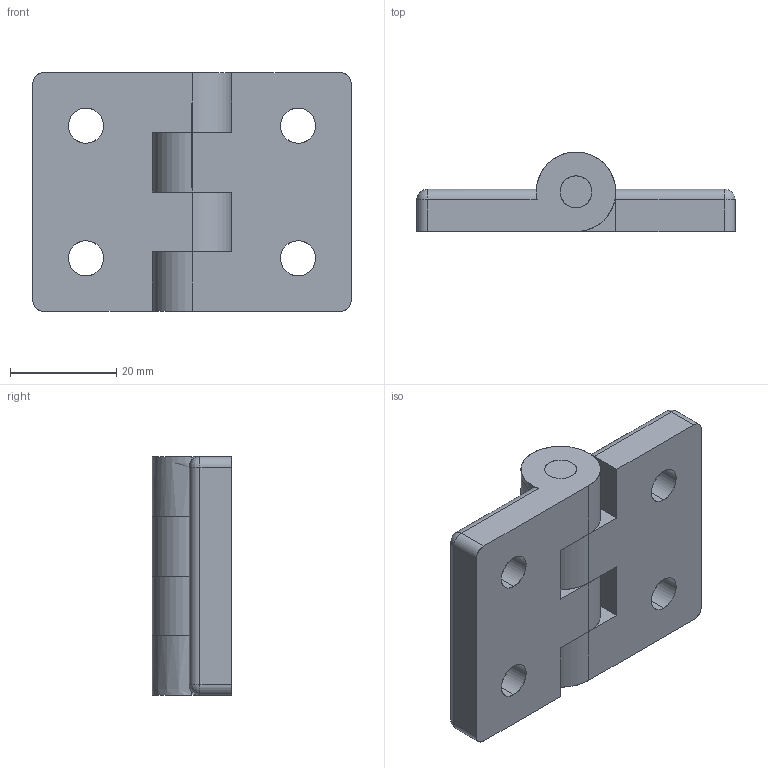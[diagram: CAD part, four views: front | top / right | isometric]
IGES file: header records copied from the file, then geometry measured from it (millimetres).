
Start section: SolidWorks IGES file using analytic representation for surfaces
Global section: file name: D:\LETROMEC CATALOGUE\Hinge\LIMA-H40X40-NEW\LIMA-H40X40-NEW.IGS; native system: SolidWorks 2013; preprocessor: SolidWorks 2013; author: User; date: 180315.205111; units: millimetre
Bounding box: 60 x 15 x 45 mm (x, y, z)
Surface area: 10891 mm2 (no closed solid volume)
Topology: 0 solids, 0 shells, 70 faces, 1150 edges, 1150 vertices
Faces by surface type: revolution 48, bspline 22
